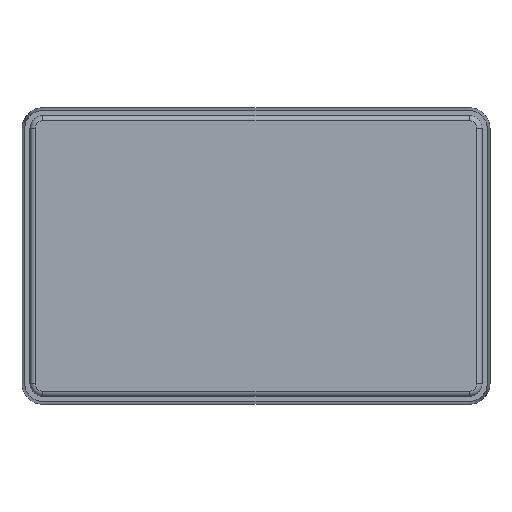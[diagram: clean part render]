
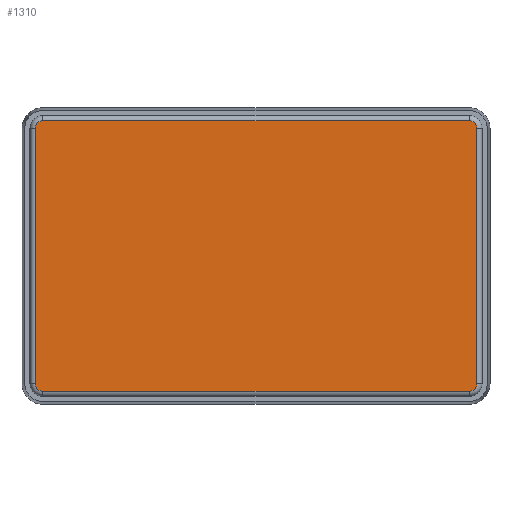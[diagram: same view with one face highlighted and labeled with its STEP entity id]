
A CAD part, front view. The second image highlights one B-rep face of the part: STEP entity #1310.
In plain terms, the highlighted planar face has unit normal (0, -1, 0).
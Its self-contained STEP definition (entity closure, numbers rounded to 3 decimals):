
#13 = ORIENTED_EDGE ( 'NONE', *, *, #1234, .T. ) ;
#122 = ORIENTED_EDGE ( 'NONE', *, *, #1461, .T. ) ;
#124 = DIRECTION ( 'NONE',  ( 0., 0., -1. ) ) ;
#204 = VERTEX_POINT ( 'NONE', #399 ) ;
#224 = VERTEX_POINT ( 'NONE', #1721 ) ;
#263 = DIRECTION ( 'NONE',  ( 0., -1., 0. ) ) ;
#399 = CARTESIAN_POINT ( 'NONE',  ( -42.975, -2.5, 24.8 ) ) ;
#419 = EDGE_LOOP ( 'NONE', ( #1100, #1570, #13, #1590, #1219, #1281, #1609, #122 ) ) ;
#423 = VERTEX_POINT ( 'NONE', #921 ) ;
#432 = FACE_OUTER_BOUND ( 'NONE', #419, .T. ) ;
#439 = AXIS2_PLACEMENT_3D ( 'NONE', #1668, #1670, #1685 ) ;
#486 = VERTEX_POINT ( 'NONE', #521 ) ;
#490 = CARTESIAN_POINT ( 'NONE',  ( -41.475, -2.5, 24.8 ) ) ;
#521 = CARTESIAN_POINT ( 'NONE',  ( -41.475, -2.5, -26.3 ) ) ;
#608 = VECTOR ( 'NONE', #1376, 1000. ) ;
#664 = VECTOR ( 'NONE', #1497, 1000. ) ;
#679 = CARTESIAN_POINT ( 'NONE',  ( 41.475, -2.5, -26.3 ) ) ;
#696 = VERTEX_POINT ( 'NONE', #679 ) ;
#758 = DIRECTION ( 'NONE',  ( 1., 0., 0. ) ) ;
#763 = DIRECTION ( 'NONE',  ( 0., 0., -1. ) ) ;
#794 = CIRCLE ( 'NONE', #1598, 1.5 ) ;
#796 = AXIS2_PLACEMENT_3D ( 'NONE', #1466, #1474, #1490 ) ;
#903 = VERTEX_POINT ( 'NONE', #1689 ) ;
#908 = PLANE ( 'NONE',  #915 ) ;
#915 = AXIS2_PLACEMENT_3D ( 'NONE', #490, #1047, #124 ) ;
#921 = CARTESIAN_POINT ( 'NONE',  ( 41.475, -2.5, 26.3 ) ) ;
#924 = LINE ( 'NONE', #1107, #975 ) ;
#975 = VECTOR ( 'NONE', #763, 1000. ) ;
#982 = CIRCLE ( 'NONE', #1536, 1.5 ) ;
#1018 = LINE ( 'NONE', #1494, #664 ) ;
#1019 = EDGE_CURVE ( 'NONE', #1319, #486, #1115, .T. ) ;
#1025 = EDGE_CURVE ( 'NONE', #696, #903, #794, .T. ) ;
#1031 = EDGE_CURVE ( 'NONE', #903, #1612, #1018, .T. ) ;
#1038 = EDGE_CURVE ( 'NONE', #1612, #423, #1324, .T. ) ;
#1047 = DIRECTION ( 'NONE',  ( 0., -1., 0. ) ) ;
#1057 = CARTESIAN_POINT ( 'NONE',  ( -41.475, -2.5, 24.8 ) ) ;
#1059 = EDGE_CURVE ( 'NONE', #204, #1319, #924, .T. ) ;
#1100 = ORIENTED_EDGE ( 'NONE', *, *, #1059, .T. ) ;
#1107 = CARTESIAN_POINT ( 'NONE',  ( -42.975, -2.5, -24.8 ) ) ;
#1115 = CIRCLE ( 'NONE', #796, 1.5 ) ;
#1189 = EDGE_CURVE ( 'NONE', #423, #224, #1304, .T. ) ;
#1198 = CARTESIAN_POINT ( 'NONE',  ( 42.975, -2.5, 24.8 ) ) ;
#1219 = ORIENTED_EDGE ( 'NONE', *, *, #1031, .T. ) ;
#1223 = VECTOR ( 'NONE', #758, 1000. ) ;
#1234 = EDGE_CURVE ( 'NONE', #486, #696, #1619, .T. ) ;
#1281 = ORIENTED_EDGE ( 'NONE', *, *, #1038, .T. ) ;
#1283 = CARTESIAN_POINT ( 'NONE',  ( -42.975, -2.5, -24.8 ) ) ;
#1304 = LINE ( 'NONE', #1580, #608 ) ;
#1310 = ADVANCED_FACE ( 'NONE', ( #432 ), #908, .T. ) ;
#1311 = DIRECTION ( 'NONE',  ( 0., 0., -1. ) ) ;
#1319 = VERTEX_POINT ( 'NONE', #1283 ) ;
#1324 = CIRCLE ( 'NONE', #439, 1.5 ) ;
#1376 = DIRECTION ( 'NONE',  ( -1., 0., 0. ) ) ;
#1461 = EDGE_CURVE ( 'NONE', #224, #204, #982, .T. ) ;
#1466 = CARTESIAN_POINT ( 'NONE',  ( -41.475, -2.5, -24.8 ) ) ;
#1474 = DIRECTION ( 'NONE',  ( 0., -1., 0. ) ) ;
#1490 = DIRECTION ( 'NONE',  ( 0., 0., -1. ) ) ;
#1494 = CARTESIAN_POINT ( 'NONE',  ( 42.975, -2.5, 24.8 ) ) ;
#1497 = DIRECTION ( 'NONE',  ( 0., 0., 1. ) ) ;
#1498 = CARTESIAN_POINT ( 'NONE',  ( 41.475, -2.5, -24.8 ) ) ;
#1523 = DIRECTION ( 'NONE',  ( 0., -1., 0. ) ) ;
#1535 = DIRECTION ( 'NONE',  ( 0., 0., -1. ) ) ;
#1536 = AXIS2_PLACEMENT_3D ( 'NONE', #1057, #263, #1311 ) ;
#1570 = ORIENTED_EDGE ( 'NONE', *, *, #1019, .T. ) ;
#1580 = CARTESIAN_POINT ( 'NONE',  ( -41.475, -2.5, 26.3 ) ) ;
#1590 = ORIENTED_EDGE ( 'NONE', *, *, #1025, .T. ) ;
#1598 = AXIS2_PLACEMENT_3D ( 'NONE', #1498, #1523, #1535 ) ;
#1609 = ORIENTED_EDGE ( 'NONE', *, *, #1189, .T. ) ;
#1612 = VERTEX_POINT ( 'NONE', #1198 ) ;
#1619 = LINE ( 'NONE', #1700, #1223 ) ;
#1668 = CARTESIAN_POINT ( 'NONE',  ( 41.475, -2.5, 24.8 ) ) ;
#1670 = DIRECTION ( 'NONE',  ( 0., -1., 0. ) ) ;
#1685 = DIRECTION ( 'NONE',  ( 0., 0., -1. ) ) ;
#1689 = CARTESIAN_POINT ( 'NONE',  ( 42.975, -2.5, -24.8 ) ) ;
#1700 = CARTESIAN_POINT ( 'NONE',  ( 41.475, -2.5, -26.3 ) ) ;
#1721 = CARTESIAN_POINT ( 'NONE',  ( -41.475, -2.5, 26.3 ) ) ;
